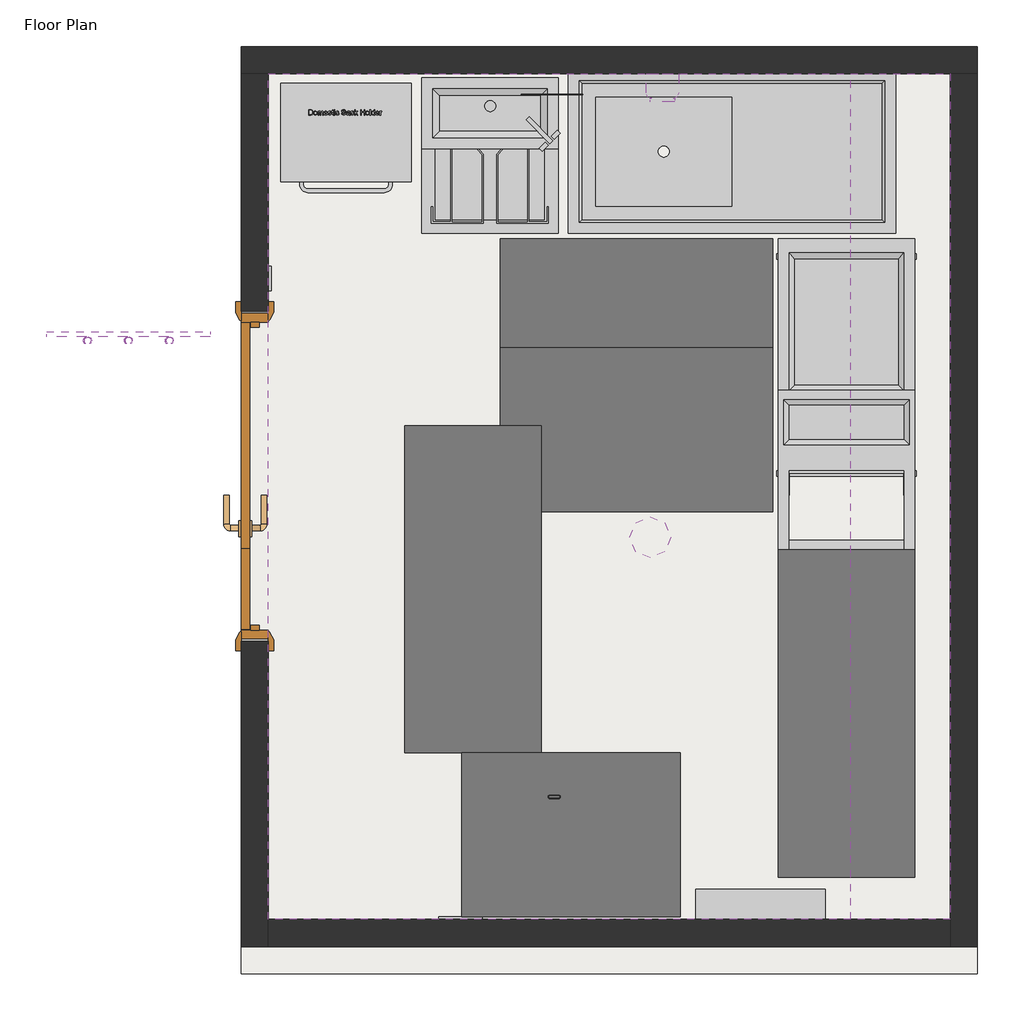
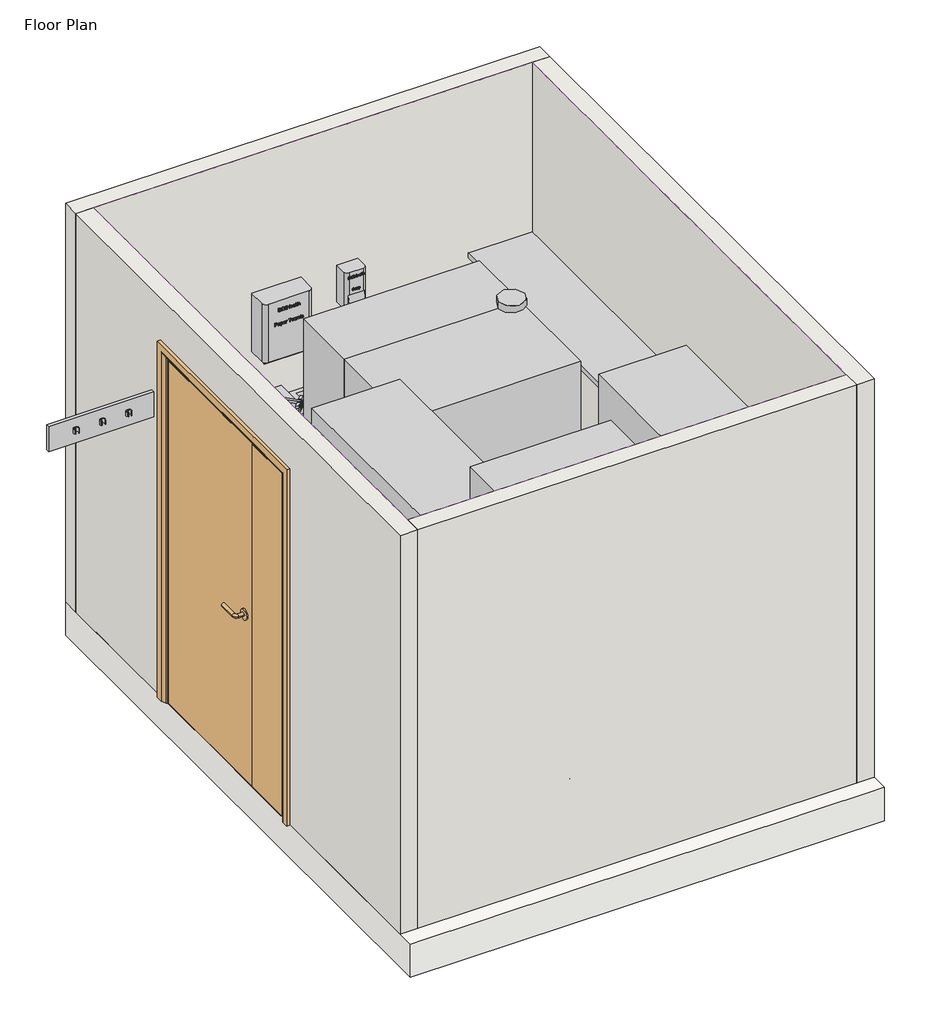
# One storey, incomplete: 12 proxies, 4 walls, 3 furniture elements, 1 covering, 1 door, 1 flow terminal, 1 slab.
"""IFC4 building model written with IfcOpenShell, lengths in millimetres."""

from ifc_helpers import new_model, si_unit, frame, origin, origin_with_axes, place, context, project, spatial, polyline, outline, extrude, faceted_brep, transform, mapped, element, save
from components import generic_models_fc8a6c12, mechanical_equipment_3b0f551e, generic_models_a36bd18e, generic_models_3deb86d9, generic_models_2ff25983, generic_models_544275ef, generic_models_68ecc83a, generic_models_3e1c2cfb, bimhealth_electrical_double_socket_v1_type_1_f9b83866, bimhealth_electrical_light_switch_v1_type_1_b5e59f8a, bimhealth_electrical_smoke_detector_v1_bimhealth_electrical_fe9fcb6c, doors_intays_1_1210x2110mm_sgl_swing_43a15386, flow_terminal_bfc8b4b2, furniture_166ce8d1, furniture_26d36cfe, furniture_197fe330

model = new_model("IFC4")

# Units and contexts
model_context = context("Model", 3, world=origin())
ifc_project = project(units=[si_unit("LENGTHUNIT", "METRE", prefix="MILLI")], contexts=[model_context])

# Site, building, storey
site = spatial("IfcSite", under=ifc_project)
building = spatial("IfcBuilding", under=site)
storey = spatial("IfcBuildingStorey", under=building, Name="Floor Plan", Elevation=0.0)

# Proxies
placement = place(None, origin())
generic_models_shape = generic_models_fc8a6c12(model_context)
element("IfcBuildingElementProxy", 1, Name="BIMHealth-Cleaners_Trolley-LOD2A-v1 : BIMHealth-Cleaners_Trolley-LOD2A-v1", ObjectType="BIMHealth-Cleaners_Trolley-LOD2A-v1 : BIMHealth-Cleaners_Trolley-LOD2A-v1", at=placement, inside=storey, context=model_context, shape_type="MappedRepresentation", body=[
    mapped(generic_models_shape, transform((1475.0, 2500.0, 0.0), x_axis=(1.0, 0.0, 0.0), y_axis=(0.0, 1.0, 0.0), z_axis=(0.0, 0.0, 1.0))),
])
mechanical_equipment_shape = mechanical_equipment_3b0f551e(model_context)
element("IfcBuildingElementProxy", 2, Name="BIMHealth-Suction_Cleaner-LOD2A-v1 : BIMHealth-Suction_Cleaner-LOD2A-v1", ObjectType="BIMHealth-Suction_Cleaner-LOD2A-v1 : BIMHealth-Suction_Cleaner-LOD2A-v1", at=placement, inside=storey, context=model_context, shape_type="MappedRepresentation", body=[
    mapped(mechanical_equipment_shape, transform((805.0, 15.0, 0.0), x_axis=(-1.0000000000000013, 0.0, 0.0), y_axis=(0.0, -1.0000000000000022, 0.0), z_axis=(0.0, 0.0, 1.0000000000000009))),
])
generic_models_2_shape = generic_models_a36bd18e(model_context)
element("IfcBuildingElementProxy", 3, Name="BIMHealth-Maintenance_Steps-LOD2A-v1 : BIMHealth-Maintenance_Steps-LOD2A-v1", ObjectType="BIMHealth-Maintenance_Steps-LOD2A-v1 : BIMHealth-Maintenance_Steps-LOD2A-v1", at=placement, inside=storey, context=model_context, shape_type="MappedRepresentation", body=[
    mapped(generic_models_2_shape, transform((1622.7778891, -160.2199406, 0.0), x_axis=(-1.0000000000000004, 0.0, 0.0), y_axis=(0.0, -1.0000000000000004, 0.0), z_axis=(0.0, 0.0, 1.0))),
])
generic_models_3_shape = generic_models_3deb86d9(model_context)
element("IfcBuildingElementProxy", 4, Name="BIMHealth-Janitorial_unit-LOD2A-v1 : BIMHealth-Janitorial_unit-LOD2A-v1", ObjectType="BIMHealth-Janitorial_unit-LOD2A-v1 : BIMHealth-Janitorial_unit-LOD2A-v1", at=placement, inside=storey, context=model_context, shape_type="MappedRepresentation", body=[
    mapped(generic_models_3_shape, transform((167.231112, 2320.0, 0.0), x_axis=(1.0, 0.0, 0.0), y_axis=(0.0, 1.0, 0.0), z_axis=(0.0, 0.0, 1.0))),
])
generic_models_4_shape = generic_models_2ff25983(model_context)
element("IfcBuildingElementProxy", 5, Name="BIMHealth-Cleaner_Trolley_Zone-LOD2A-v1 : BIMHealth-Cleaner_Trolley_Zone-LOD2A-v1", ObjectType="BIMHealth-Cleaner_Trolley_Zone-LOD2A-v1 : BIMHealth-Cleaner_Trolley_Zone-LOD2A-v1", at=placement, inside=storey, context=model_context, shape_type="MappedRepresentation", body=[
    mapped(generic_models_4_shape, transform((1475.0, 1160.0, 0.0), x_axis=(1.0, 0.0, 0.0), y_axis=(0.0, 1.0, 0.0), z_axis=(0.0, 0.0, 1.0))),
])
element("IfcBuildingElementProxy", 6, Name="BIMHealth-Cleaner_Trolley_Zone_Unloading-LOD2A-v1 : BIMHealth-Cleaner_Trolley_Zone_Unloading-LOD2A-v1", ObjectType="BIMHealth-Cleaner_Trolley_Zone_Unloading-LOD2A-v1 : BIMHealth-Cleaner_Trolley_Zone_Unloading-LOD2A-v1", at=placement, inside=storey, context=model_context, shape_type="MappedRepresentation", body=[
    mapped(generic_models_4_shape, transform((105.0, 1615.0, 0.0), x_axis=(1.0, 0.0, 0.0), y_axis=(0.0, 1.0, 0.0), z_axis=(0.0, 0.0, 1.0))),
])
generic_models_5_shape = generic_models_544275ef(model_context)
element("IfcBuildingElementProxy", 7, Name="BIMHealth-Clearance_Zone_Sink-LOD2A-v1 : BIMHealth-Clearance_Zone_Sink-LOD2A-v1", ObjectType="BIMHealth-Clearance_Zone_Sink-LOD2A-v1 : BIMHealth-Clearance_Zone_Sink-LOD2A-v1", at=placement, inside=storey, context=model_context, shape_type="MappedRepresentation", body=[
    mapped(generic_models_5_shape, transform((454.731112, 2300.0, 0.0), x_axis=(1.0, 0.0, 0.0), y_axis=(0.0, 1.0, 0.0), z_axis=(0.0, 0.0, 1.0))),
])
generic_models_6_shape = generic_models_68ecc83a(model_context)
element("IfcBuildingElementProxy", 8, Name="BIMHealth-300mm_deep_shelving-LOD2A-v1 : BIMHealth-300mm_deep_shelving-LOD2A-v1", ObjectType="BIMHealth-300mm_deep_shelving-LOD2A-v1 : BIMHealth-300mm_deep_shelving-LOD2A-v1", at=placement, inside=storey, context=model_context, shape_type="MappedRepresentation", body=[
    mapped(generic_models_6_shape, transform((1739.8756098, -195.0, 0.0), x_axis=(0.0, 1.0000000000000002, 0.0), y_axis=(-1.0000000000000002, 0.0, 0.0), z_axis=(0.0, 0.0, 1.0))),
])
generic_models_7_shape = generic_models_3e1c2cfb(model_context)
element("IfcBuildingElementProxy", 9, Name="BIMHealth-Equipment_hooks-LOD2A-v1 : BIMHealth-Equipment_hooks-LOD2A-v1", ObjectType="BIMHealth-Equipment_hooks-LOD2A-v1 : BIMHealth-Equipment_hooks-LOD2A-v1", at=placement, inside=storey, context=model_context, shape_type="MappedRepresentation", body=[
    mapped(generic_models_7_shape, transform((-1208.0, 1960.0, 0.0), x_axis=(1.0, 0.0, 0.0), y_axis=(0.0, 1.0, 0.0), z_axis=(0.0, 0.0, 1.0))),
])
bimhealth_electrical_double_socket_v1_type_1_shape = bimhealth_electrical_double_socket_v1_type_1_f9b83866(model_context)
element("IfcBuildingElementProxy", 10, Name="BIMHealth-Electrical-Double_Socket-v1 : Type 1", ObjectType="BIMHealth-Electrical-Double_Socket-v1 : Type 1", at=placement, inside=storey, context=model_context, shape_type="MappedRepresentation", body=[
    mapped(bimhealth_electrical_double_socket_v1_type_1_shape, transform((105.0, -245.0, 0.0), x_axis=(1.0, 0.0, 0.0), y_axis=(0.0, 1.0, 0.0), z_axis=(0.0, 0.0, 1.0))),
])
bimhealth_electrical_light_switch_v1_type_1_shape = bimhealth_electrical_light_switch_v1_type_1_b5e59f8a(model_context)
element("IfcBuildingElementProxy", 11, Name="BIMHealth-Electrical-Light_Switch-v1 : Type 1", ObjectType="BIMHealth-Electrical-Light_Switch-v1 : Type 1", at=placement, inside=storey, context=model_context, shape_type="MappedRepresentation", body=[
    mapped(bimhealth_electrical_light_switch_v1_type_1_shape, transform((-445.0, 2325.0, -60.0), x_axis=(0.0, -1.0, 0.0), y_axis=(1.0, 0.0, 0.0), z_axis=(0.0, 0.0, 1.0))),
])
bimhealth_electrical_smoke_detector_v1_bimhealth_electrical_shape = bimhealth_electrical_smoke_detector_v1_bimhealth_electrical_fe9fcb6c(model_context)
element("IfcBuildingElementProxy", 12, Name="BIMHealth-Electrical-Smoke_Detector-v1 : BIMHealth-Electrical-Smoke_Detector-v1", ObjectType="BIMHealth-Electrical-Smoke_Detector-v1 : BIMHealth-Electrical-Smoke_Detector-v1", at=placement, inside=storey, context=model_context, shape_type="MappedRepresentation", body=[
    mapped(bimhealth_electrical_smoke_detector_v1_bimhealth_electrical_shape, transform((1005.0, 1205.0, -38.4), x_axis=(1.0, 0.0, 0.0), y_axis=(0.0, 1.0, 0.0), z_axis=(0.0, 0.0, 1.0))),
])

# Covering
element("IfcCovering", 13, ObjectType="BIMHealth - Generic Ceiling", at=placement, inside=storey, context=model_context, shape_type="SweptSolid", body=[
    extrude(outline(polyline([(2105.0, 2905.0), (2105.0, -195.0), (-395.0, -195.0), (-395.0, 2905.0), (2105.0, 2905.0)])), frame((0.0, 0.0, 2400.0), z_axis=(0.0, 0.0, 1.0), x_axis=(1.0, 0.0, 0.0)), (0.0, 0.0, 1.0), 52.0),
])

# Door
doors_intays_1_1210x2110mm_sgl_swing_shape = doors_intays_1_1210x2110mm_sgl_swing_43a15386(model_context)
element("IfcDoor", 14, ObjectType="Doors_IntAys_1 : 1210x2110mm-Sgl_Swing", at=placement, inside=storey, context=model_context, shape_type="MappedRepresentation", body=[
    mapped(doors_intays_1_1210x2110mm_sgl_swing_shape, transform((-445.0, 1191.0, 0.0), x_axis=(0.0, 1.0, 0.0), y_axis=(-1.0, 0.0, 0.0), z_axis=(0.0, 0.0, 1.0))),
])

# Flow terminal
flow_terminal_shape = flow_terminal_bfc8b4b2(model_context)
element("IfcFlowTerminal", 15, ObjectType="BIMHealth-Stainless_Steel_Sink-LOD2A-v1 : BIMHealth-Stainless_Steel_Sink-LOD2A-v1", at=placement, inside=storey, context=model_context, shape_type="MappedRepresentation", body=[
    mapped(flow_terminal_shape, transform((705.0, 2920.0, 0.0), x_axis=(1.0, 0.0, 0.0), y_axis=(0.0, 1.0, 0.0), z_axis=(0.0, 0.0, 1.0))),
])

# Furniture
furniture_shape = furniture_166ce8d1(model_context)
element("IfcFurniture", 16, ObjectType="BIMHealth-Paper_Towel_Dispenser-LOD2A-v1 : BIMHealth-Paper_Towel_Dispenser-LOD2A-v1", at=placement, inside=storey, context=model_context, shape_type="MappedRepresentation", body=[
    mapped(furniture_shape, transform((505.0, 2905.0, 20.0), x_axis=(1.0000000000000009, 0.0, 0.0), y_axis=(0.0, 1.0000000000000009, 0.0), z_axis=(0.0, 0.0, 1.0))),
])
furniture_2_shape = furniture_26d36cfe(model_context)
element("IfcFurniture", 17, ObjectType="BIMHealth-Soap_Dispenser-LOD2A-v1 : BIMHealth-Soap_Dispenser-LOD2A-v1", at=placement, inside=storey, context=model_context, shape_type="MappedRepresentation", body=[
    mapped(furniture_2_shape, transform((990.0, 2905.0, 150.0), x_axis=(1.0, 0.0, 0.0), y_axis=(0.0, 1.0, 0.0), z_axis=(0.0, 0.0, 1.0))),
])
furniture_3_shape = furniture_197fe330(model_context)
element("IfcFurniture", 18, ObjectType="BIMHealth-Sack_Holder_Domestic-LOD2A-v1 : BIMHealth-Sack_Holder_Domestic-LOD2A-v1", at=placement, inside=storey, context=model_context, shape_type="MappedRepresentation", body=[
    mapped(furniture_3_shape, transform((-330.0, 2850.0, 0.0), x_axis=(1.0000000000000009, 0.0, 0.0), y_axis=(0.0, 1.0000000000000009, 0.0), z_axis=(0.0, 0.0, 1.0))),
])

# Slab
element("IfcSlab", 19, ObjectType="BIMHealth - Generic Floor", at=placement, inside=storey, context=model_context, shape_type="SweptSolid", body=[
    extrude(outline(polyline([(2205.0, 3005.0), (2205.0, -395.0), (-495.0, -395.0), (-495.0, 3005.0), (2205.0, 3005.0)])), frame((0.0, 0.0, -200.0), z_axis=(0.0, 0.0, 1.0), x_axis=(1.0, 0.0, 0.0)), (0.0, 0.0, 1.0), 200.0),
])

# Walls
element("IfcWall", 20, ObjectType="BIMHealth - Generic Wall", at=placement, inside=storey, context=model_context, shape_type="Brep", body=[
    faceted_brep([(-395.0, 2905.0, 2400.0), (-395.0, -195.0, 2400.0), (-395.0, -295.0, 2400.0), (-395.0, -295.0, 0.0), (-395.0, -195.0, 0.0), (-395.0, 825.0, 0.0), (-395.0, 825.0, 2110.0), (-395.0, 2035.0, 2110.0), (-395.0, 2035.0, 0.0), (-395.0, 2905.0, 0.0), (-495.0, -295.0, 2400.0), (-495.0, 2905.0, 2400.0), (-495.0, 2905.0, 0.0), (-495.0, 2035.0, 0.0), (-495.0, 2035.0, 2110.0), (-495.0, 825.0, 2110.0), (-495.0, 825.0, 0.0), (-495.0, -295.0, 0.0)], [[[0, 1, 2, 3, 4, 5, 6, 7, 8, 9]], [[10, 11, 12, 13, 14, 15, 16, 17]], [[3, 17, 16, 5, 4]], [[12, 9, 8, 13]], [[2, 1, 0, 11, 10]], [[3, 2, 10, 17]], [[0, 9, 12, 11]], [[7, 14, 13, 8]], [[14, 7, 6, 15]], [[15, 6, 5, 16]]]),
])
element("IfcWall", 21, ObjectType="BIMHealth - Generic Wall", at=placement, inside=storey, context=model_context, shape_type="Brep", body=[
    faceted_brep([(-495.0, 2905.0, 0.0), (-395.0, 2905.0, 0.0), (2105.0, 2905.0, 0.0), (2205.0, 2905.0, 0.0), (2205.0, 2905.0, 2400.0), (2105.0, 2905.0, 2400.0), (-395.0, 2905.0, 2400.0), (-495.0, 2905.0, 2400.0), (-495.0, 3005.0, 0.0), (-495.0, 3005.0, 2400.0), (2205.0, 3005.0, 2400.0), (2205.0, 3005.0, 0.0)], [[[0, 1, 2, 3, 4, 5, 6, 7]], [[8, 9, 10, 11]], [[3, 2, 1, 0, 8, 11]], [[7, 6, 5, 4, 10, 9]], [[4, 3, 11, 10]], [[0, 7, 9, 8]]]),
])
element("IfcWall", 22, ObjectType="BIMHealth - Generic Wall", at=placement, inside=storey, context=model_context, shape_type="Brep", body=[
    faceted_brep([(2105.0, 2905.0, 0.0), (2105.0, -195.0, 0.0), (2105.0, -295.0, 0.0), (2105.0, -295.0, 2400.0), (2105.0, -195.0, 2400.0), (2105.0, 2905.0, 2400.0), (2205.0, 2905.0, 0.0), (2205.0, 2905.0, 2400.0), (2205.0, -295.0, 2400.0), (2205.0, -295.0, 0.0)], [[[0, 1, 2, 3, 4, 5]], [[6, 7, 8, 9]], [[2, 1, 0, 6, 9]], [[5, 4, 3, 8, 7]], [[0, 5, 7, 6]], [[3, 2, 9, 8]]]),
])
element("IfcWall", 23, ObjectType="BIMHealth - Generic Wall", at=placement, inside=storey, context=model_context, shape_type="SweptSolid", body=[
    extrude(outline(polyline([(-395.0, -195.0), (2105.0, -195.0), (2105.0, -295.0), (-395.0, -295.0), (-395.0, -195.0)])), origin_with_axes(), (0.0, 0.0, 1.0), 2400.0),
])

save(model, "model.ifc")
